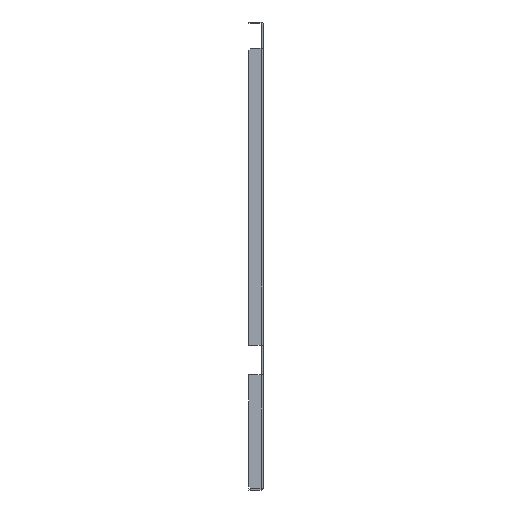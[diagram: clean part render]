
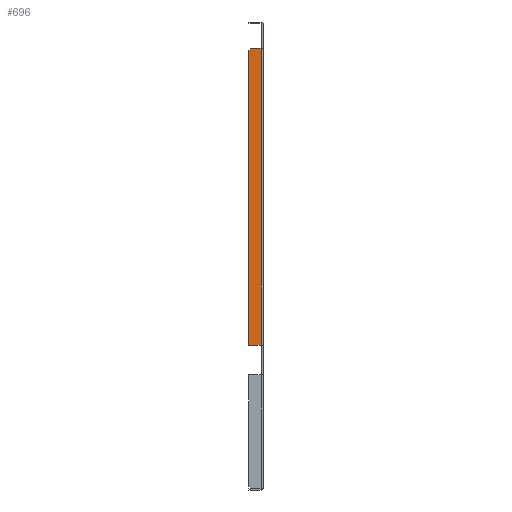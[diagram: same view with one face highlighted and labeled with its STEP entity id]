
A CAD part, left-side view. The second image highlights one B-rep face of the part: STEP entity #696.
In plain terms, the highlighted planar face has unit normal (-1, 0, 0).
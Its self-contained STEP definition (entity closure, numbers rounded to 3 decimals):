
#25 = FACE_OUTER_BOUND ( 'NONE', #1912, .T. ) ;
#69 = CARTESIAN_POINT ( 'NONE',  ( -749.5, 3.5, -150.5 ) ) ;
#71 = DIRECTION ( 'NONE',  ( 0., 0., -1. ) ) ;
#122 = CARTESIAN_POINT ( 'NONE',  ( -749.5, 1.25, -150.5 ) ) ;
#137 = DIRECTION ( 'NONE',  ( 0., 1., 0. ) ) ;
#138 = CARTESIAN_POINT ( 'NONE',  ( -749.5, 22.5, 349. ) ) ;
#152 = DIRECTION ( 'NONE',  ( 0., -0.707, 0.707 ) ) ;
#180 = CARTESIAN_POINT ( 'NONE',  ( -749.5, 1.25, 350.5 ) ) ;
#183 = VERTEX_POINT ( 'NONE', #495 ) ;
#198 = DIRECTION ( 'NONE',  ( 0., 1., 0. ) ) ;
#212 = CARTESIAN_POINT ( 'NONE',  ( -749.5, 24., 392.5 ) ) ;
#219 = DIRECTION ( 'NONE',  ( 0., 0., -1. ) ) ;
#382 = EDGE_CURVE ( 'NONE', #584, #1436, #1807, .T. ) ;
#404 = EDGE_CURVE ( 'NONE', #845, #2905, #2388, .T. ) ;
#426 = EDGE_CURVE ( 'NONE', #584, #2905, #2835, .T. ) ;
#430 = EDGE_CURVE ( 'NONE', #183, #1436, #2274, .T. ) ;
#446 = EDGE_CURVE ( 'NONE', #845, #183, #3081, .T. ) ;
#495 = CARTESIAN_POINT ( 'NONE',  ( -749.5, 3.5, -150.5 ) ) ;
#584 = VERTEX_POINT ( 'NONE', #2779 ) ;
#696 = ADVANCED_FACE ( 'NONE', ( #25 ), #2563, .T. ) ;
#720 = VECTOR ( 'NONE', #137, 1000. ) ;
#834 = ORIENTED_EDGE ( 'NONE', *, *, #382, .T. ) ;
#845 = VERTEX_POINT ( 'NONE', #2330 ) ;
#1165 = VECTOR ( 'NONE', #152, 1000. ) ;
#1206 = ORIENTED_EDGE ( 'NONE', *, *, #446, .F. ) ;
#1436 = VERTEX_POINT ( 'NONE', #1759 ) ;
#1673 = CARTESIAN_POINT ( 'NONE',  ( -749.5, 21., 350.5 ) ) ;
#1759 = CARTESIAN_POINT ( 'NONE',  ( -749.5, 24., -150.5 ) ) ;
#1807 = LINE ( 'NONE', #212, #2854 ) ;
#1912 = EDGE_LOOP ( 'NONE', ( #2574, #2474, #834, #2277, #1206 ) ) ;
#2274 = LINE ( 'NONE', #122, #720 ) ;
#2277 = ORIENTED_EDGE ( 'NONE', *, *, #430, .F. ) ;
#2307 = VECTOR ( 'NONE', #198, 1000. ) ;
#2330 = CARTESIAN_POINT ( 'NONE',  ( -749.5, 3.5, 350.5 ) ) ;
#2384 = AXIS2_PLACEMENT_3D ( 'NONE', #2556, #2550, #2549 ) ;
#2388 = LINE ( 'NONE', #180, #2307 ) ;
#2474 = ORIENTED_EDGE ( 'NONE', *, *, #426, .F. ) ;
#2549 = DIRECTION ( 'NONE',  ( 0., 0., 1. ) ) ;
#2550 = DIRECTION ( 'NONE',  ( -1., 0., 0. ) ) ;
#2556 = CARTESIAN_POINT ( 'NONE',  ( -749.5, 0., 392.5 ) ) ;
#2563 = PLANE ( 'NONE',  #2384 ) ;
#2574 = ORIENTED_EDGE ( 'NONE', *, *, #404, .T. ) ;
#2779 = CARTESIAN_POINT ( 'NONE',  ( -749.5, 24., 347.5 ) ) ;
#2835 = LINE ( 'NONE', #138, #1165 ) ;
#2854 = VECTOR ( 'NONE', #219, 1000. ) ;
#2905 = VERTEX_POINT ( 'NONE', #1673 ) ;
#2984 = VECTOR ( 'NONE', #71, 1000. ) ;
#3081 = LINE ( 'NONE', #69, #2984 ) ;
